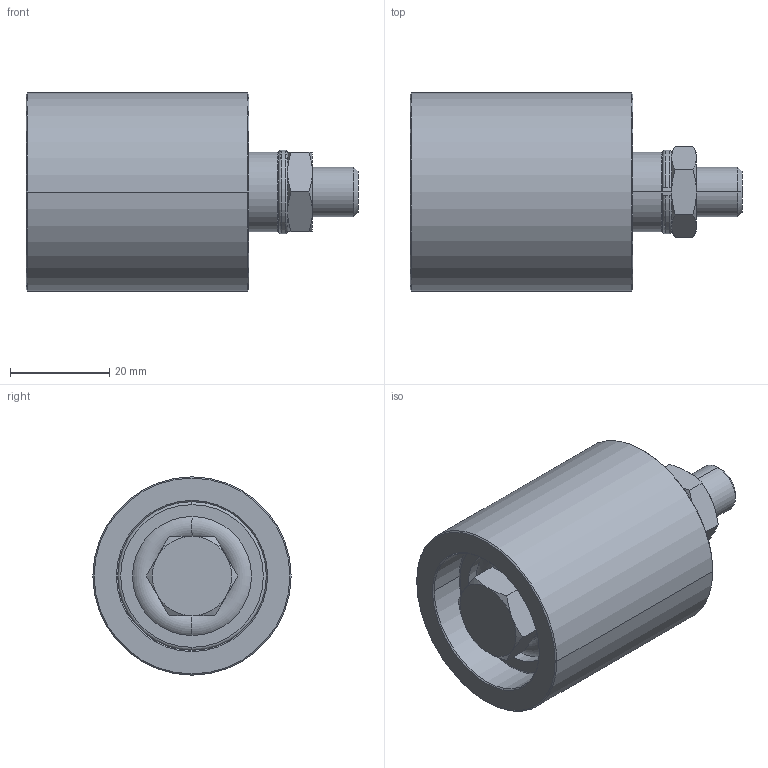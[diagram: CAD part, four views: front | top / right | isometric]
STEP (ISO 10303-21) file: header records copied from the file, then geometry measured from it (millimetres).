
FILE_DESCRIPTION (( 'STEP AP203' ), '1' );
FILE_NAME ('RU 4045 AL cod. 94040045.STEP', '2017-07-24T14:54:28', ( '' ), ( '' ), 'SwSTEP 2.0', 'SolidWorks 2016', '' );
FILE_SCHEMA (( 'CONFIG_CONTROL_DESIGN' ));
Length unit declared in the file: millimetre
Products named in the file (7): ISO 4014 - M10 x 60 x 60-C_ISO 4014 - M10 x 60 x 60-C; DIN 6905-9.3-FSt_DIN 6905-9.3-FSt; RU 4045 AL cod. 94040045; ISO - 4035 - M10 - C_ISO - 4035 - M10 - C; AL-2974045VS; DIST-4045; SKF - 6200 - 8,SI,NC,8_68_SKF - 6200 - 8,SI,NC,8_68
Assembly tree (8 placements, depth 2):
  RU 4045 AL cod. 94040045
    AL-2974045VS
    DIST-4045  x2
    SKF - 6200 - 8,SI,NC,8_68_SKF - 6200 - 8,SI,NC,8_68  x2
    ISO 4014 - M10 x 60 x 60-C_ISO 4014 - M10 x 60 x 60-C
    DIN 6905-9.3-FSt_DIN 6905-9.3-FSt
    ISO - 4035 - M10 - C_ISO - 4035 - M10 - C
Bounding box: 67 x 40 x 40 mm (x, y, z)
Volume: 46879 mm3; surface area: 23315.4 mm2
Topology: 8 solids, 8 shells, 175 faces, 360 edges, 208 vertices
Faces by surface type: cone 52, cylinder 50, plane 43, torus 30
Entity records: 4477 total; most frequent: CARTESIAN_POINT 828, DIRECTION 662, ORIENTED_EDGE 552, AXIS2_PLACEMENT_3D 286, EDGE_CURVE 276, VERTEX_POINT 160, EDGE_LOOP 146, CIRCLE 142
